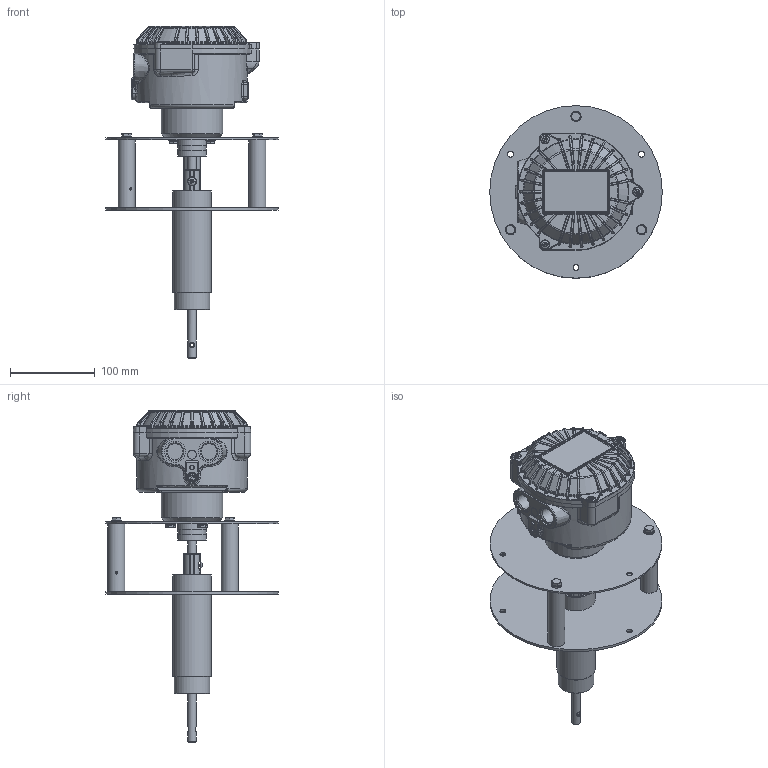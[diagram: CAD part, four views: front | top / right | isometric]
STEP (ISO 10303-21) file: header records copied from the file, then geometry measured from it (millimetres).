
FILE_DESCRIPTION(/* description */ (''),/* implementation_level */ '2;1');
FILE_NAME(/* name */ '\\srvgest\camlogic\TEMP\Kulwant S\2_STEP\2_STEP\PFG05\PFG-05 ATFHV.stp',/* time_stamp */ '2021-06-10T12:20:05+02:00',/* author */ ('kulwant.singh'),/* organization */ (''),/* preprocessor_version */ 'ST-DEVELOPER v18.1',/* originating_system */ 'Autodesk Inventor 2022',/* authorisation */ '');
FILE_SCHEMA (('AUTOMOTIVE_DESIGN { 1 0 10303 214 3 1 1 }'));
Products named in the file (1): PFG-05 ATFHV
Bounding box: 203 x 203 x 390.7 mm (x, y, z)
Volume: 1868810 mm3; surface area: 254427.1 mm2
Topology: 1 solids, 1 shells, 2276 faces, 5303 edges, 3071 vertices
Faces by surface type: bspline 698, cylinder 481, plane 463, cone 272, torus 237, sphere 125
Full cylindrical faces by diameter (mm): 4.134 x1, 4.6 x1, 4.65 x1, 5 x3, 7 x6, 8.88 x6, 10 x5, 10.1 x1, 10.5 x1, 10.75 x1, 10.8 x3, 12 x6, 18.631 x2, 20 x3, 25 x2, 26.15 x1, 27.2 x1, 33 x1, 34 x2, 42 x1, 45 x2, 72.226 x1, 203 x2
Entity records: 88663 total; most frequent: CARTESIAN_POINT 38798, ORIENTED_EDGE 10576, DIRECTION 9030, EDGE_CURVE 5288, AXIS2_PLACEMENT_3D 3825, VERTEX_POINT 3071, EDGE_LOOP 2355, FACE_OUTER_BOUND 2276
